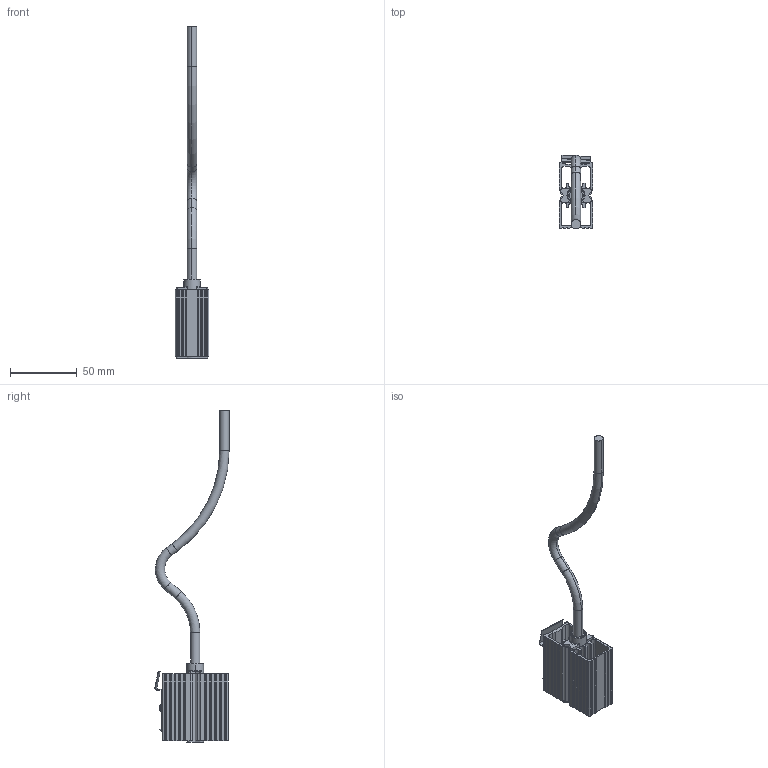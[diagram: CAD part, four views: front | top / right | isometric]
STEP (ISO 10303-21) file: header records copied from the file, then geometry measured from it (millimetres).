
FILE_DESCRIPTION (( 'STEP AP214' ), '1' );
FILE_NAME ('R5CHT030.STEP', '2026-01-30T19:19:23', ( '' ), ( '' ), 'SwSTEP 2.0', 'SolidWorks 2022', '' );
FILE_SCHEMA (( 'AUTOMOTIVE_DESIGN' ));
Length unit declared in the file: millimetre
Products named in the file (1): R5CHT030
Bounding box: 25.45 x 55.57 x 248.69 mm (x, y, z)
Volume: 35671.7 mm3; surface area: 27182.4 mm2
Topology: 6 solids, 6 shells, 265 faces, 739 edges, 487 vertices
Faces by surface type: plane 195, cylinder 57, torus 13
Entity records: 8583 total; most frequent: CARTESIAN_POINT 1591, ORIENTED_EDGE 1478, DIRECTION 1389, EDGE_CURVE 739, LINE 599, VECTOR 599, VERTEX_POINT 487, AXIS2_PLACEMENT_3D 395
